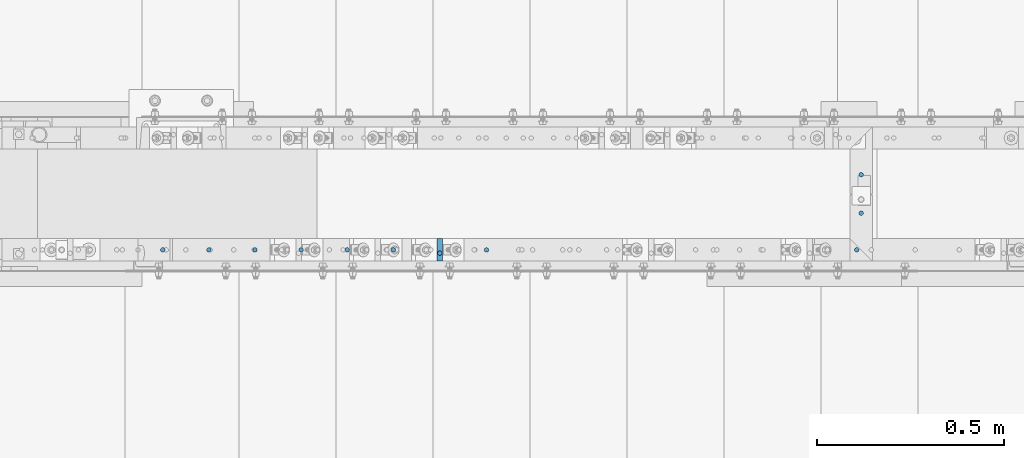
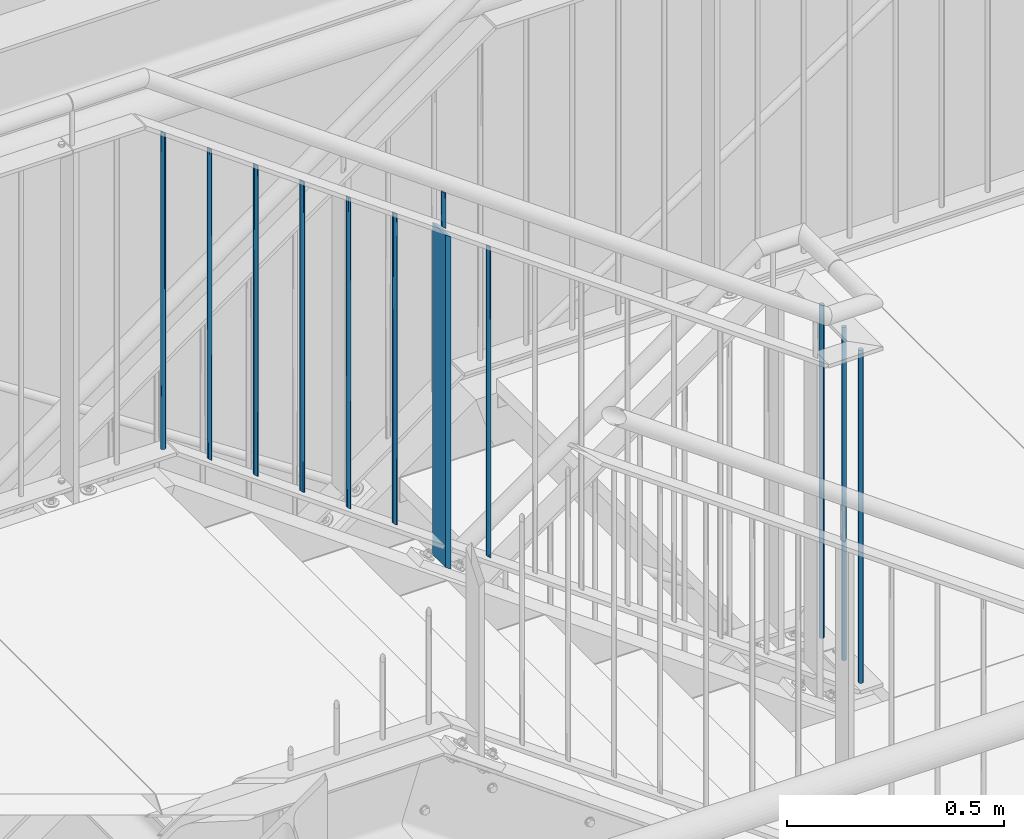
# One storey, part 50 of 825: 12 columns.
"""IFC2X3 building model written with IfcOpenShell, lengths in millimetres."""

import ifcopenshell
import ifcopenshell.guid

model = None  # the IFC model being written
_history = None  # IfcOwnerHistory: only IFC2X3 demands one
_inside = {}  # id of a spatial element -> (the spatial element, [elements in it])
_under = {}  # id of a project, library or spatial element -> (it, [spatial elements below it])
_declared = {}  # id of a project -> (the project, [libraries it declares])
_typed = {}  # id of a type object -> (the type object, [elements of that type])
_made_of = {}  # id of a material, layer set ... -> (it, [elements and type objects made of it])


def new_model(schema):
    """Start an empty IFC model of exactly this schema.

    Asked for "IFC4X3", IfcOpenShell would pick the latest addendum, in which some entities
    have other attributes; the version numbers below select the first issue.
    IFC2X3 requires an IfcOwnerHistory on every rooted entity: one is made here for all.
    """
    global model, _history
    if schema == "IFC4X3":
        model = ifcopenshell.file(schema_version=(4, 3, 0, 0))
    else:
        model = ifcopenshell.file(schema=schema)
    _inside.clear()
    _under.clear()
    _declared.clear()
    _typed.clear()
    _made_of.clear()
    _history = None
    if model.schema == "IFC2X3":
        org = make("IfcOrganization", Name="unknown")
        user = make(
            "IfcPersonAndOrganization",
            ThePerson=make("IfcPerson", FamilyName="unknown"),
            TheOrganization=org,
        )
        app = make(
            "IfcApplication",
            ApplicationDeveloper=org,
            Version="unknown",
            ApplicationFullName="unknown",
            ApplicationIdentifier="unknown",
        )
        _history = make(
            "IfcOwnerHistory",
            OwningUser=user,
            OwningApplication=app,
            ChangeAction="ADDED",
            CreationDate=0,
        )
    return model


def make(cls, **values):
    """One entity of the class cls with the attributes given. An attribute that is None is left unset."""
    return model.create_entity(
        cls, **{name: value for name, value in values.items() if value is not None}
    )


def entity(cls, *values):
    """Any entity or typed value of the class cls, its attributes in the order of the schema. None: left unset."""
    e = model.create_entity(cls)
    for i, value in enumerate(values):
        if value is not None:
            e[i] = value
    return e


def rooted(cls, **values):
    """An entity with a GlobalId (a new one), such as an element, a storey or a relation."""
    return make(cls, GlobalId=ifcopenshell.guid.new(), OwnerHistory=_history, **values)


def si_unit(unit_type, name, prefix=None):
    """IfcSIUnit, for example si_unit("LENGTHUNIT", "METRE", prefix="MILLI")."""
    return make("IfcSIUnit", UnitType=unit_type, Prefix=prefix, Name=name)


def converted_unit(unit_type, name, factor, base, dimensions=None, offset=None):
    """IfcConversionBasedUnit, such as the inch: factor (a typed value) times the base unit."""
    return make(
        "IfcConversionBasedUnit"
        if offset is None
        else "IfcConversionBasedUnitWithOffset",
        ConversionOffset=offset,
        Dimensions=None
        if dimensions is None
        else entity("IfcDimensionalExponents", *dimensions),
        UnitType=unit_type,
        Name=name,
        ConversionFactor=make(
            "IfcMeasureWithUnit", ValueComponent=factor, UnitComponent=base
        ),
    )


def assignment(units):
    """IfcUnitAssignment: the units of a project."""
    return None if units is None else make("IfcUnitAssignment", Units=units)


def point(xyz):
    """IfcCartesianPoint."""
    return None if xyz is None else make("IfcCartesianPoint", Coordinates=xyz)


def direction(xyz):
    """IfcDirection."""
    return None if xyz is None else make("IfcDirection", DirectionRatios=xyz)


def frame(location, z_axis=None, x_axis=None):
    """IfcAxis2Placement3D, a coordinate frame: its origin and axes. An axis left out is left unset."""
    return make(
        "IfcAxis2Placement3D",
        Location=point(location),
        Axis=direction(z_axis),
        RefDirection=direction(x_axis),
    )


def frame_2d(location, x_axis=None):
    """IfcAxis2Placement2D, a coordinate frame in the plane: its origin and x axis."""
    return make(
        "IfcAxis2Placement2D", Location=point(location), RefDirection=direction(x_axis)
    )


def origin():
    """The frame at (0, 0, 0) with its axes left unset."""
    return frame((0.0, 0.0, 0.0))


def origin_with_axes():
    """The frame at (0, 0, 0) with the z axis (0, 0, 1) and the x axis (1, 0, 0) written out."""
    return frame((0.0, 0.0, 0.0), z_axis=(0.0, 0.0, 1.0), x_axis=(1.0, 0.0, 0.0))


def origin_2d():
    """The frame at (0, 0) in the plane with its x axis left unset."""
    return frame_2d((0.0, 0.0))


def place(relative_to, where):
    """IfcLocalPlacement: puts the frame where relative to a parent placement (None: the world)."""
    return make(
        "IfcLocalPlacement", PlacementRelTo=relative_to, RelativePlacement=where
    )


def context(
    kind, dimensions, precision=None, world=None, true_north=None, identifier=None
):
    """IfcGeometricRepresentationContext, for example the 3D "Model" context."""
    return make(
        "IfcGeometricRepresentationContext",
        ContextIdentifier=identifier,
        ContextType=kind,
        CoordinateSpaceDimension=dimensions,
        Precision=precision,
        WorldCoordinateSystem=world,
        TrueNorth=true_north,
    )


def project(units=None, contexts=None):
    """IfcProject with its units and contexts."""
    return rooted(
        "IfcProject",
        Name="project",
        RepresentationContexts=contexts,
        UnitsInContext=assignment(units),
    )


def spatial(cls, under=None, at=None, **own):
    """A site, building, storey or space (cls), placed at a placement, below another one or the project."""
    s = rooted(cls, ObjectPlacement=at, **own)
    if under is not None:
        _under.setdefault(under.id(), (under, []))[1].append(s)
    return s


def profile(cls, at=None, kind="AREA", **sizes):
    """A parametric profile (cls). Its sizes go by their IFC names, for example OverallWidth=200.0."""
    return make(cls, ProfileType=kind, Position=at, **sizes)


def rectangle(**sizes):
    """IfcRectangleProfileDef."""
    return profile("IfcRectangleProfileDef", **sizes)


def circle(**sizes):
    """IfcCircleProfileDef."""
    return profile("IfcCircleProfileDef", **sizes)


def extrude(swept, where, along, depth):
    """IfcExtrudedAreaSolid: the profile swept, set in the frame where, extruded along a direction by depth."""
    return make(
        "IfcExtrudedAreaSolid",
        SweptArea=swept,
        Position=where,
        ExtrudedDirection=direction(along),
        Depth=depth,
    )


def clip(a, b, op="DIFFERENCE"):
    """IfcBooleanClippingResult: the solid a cut by the half space b."""
    return make(
        "IfcBooleanClippingResult", Operator=op, FirstOperand=a, SecondOperand=b
    )


def halfspace(plane, agree):
    """IfcHalfSpaceSolid: all space on one side of the plane z = 0 of the frame plane."""
    return make(
        "IfcHalfSpaceSolid",
        BaseSurface=make("IfcPlane", Position=plane),
        AgreementFlag=agree,
    )


def shape(context_of_items, identifier, shape_type, items):
    """IfcShapeRepresentation: the items that make up one representation, for example the "Body"."""
    return make(
        "IfcShapeRepresentation",
        ContextOfItems=context_of_items,
        RepresentationIdentifier=identifier,
        RepresentationType=shape_type,
        Items=items,
    )


def material(Name=None, Category=None):
    """IfcMaterial."""
    return make("IfcMaterial", Name=Name, Category=Category)


def made_of(thing, what):
    """Note that an element or type object is made of a material, layer set ...; save() writes the relation."""
    if what is not None:
        _made_of.setdefault(what.id(), (what, []))[1].append(thing)
    return thing


def element(
    cls,
    number,
    at=None,
    inside=None,
    cuts=None,
    type_object=None,
    material=None,
    context=None,
    identifier="Body",
    shape_type=None,
    held_by="IfcProductDefinitionShape",
    body=None,
    shapes=None,
    **own,
):
    """One element of the class cls, such as IfcWall. Its Tag is "e" and its number.

    at: its placement. inside: the storey or other place that contains it. cuts: it is an
    opening in that element (IfcRelVoidsElement). A single representation is given by context,
    identifier, shape_type and body (its items); several are given by shapes. held_by: the class
    of the entity that holds the representations. save() writes the other relations.
    """
    e = rooted(cls, Tag="e%d" % number, ObjectPlacement=at, **own)
    if body is not None:
        shapes = [shape(context, identifier, shape_type, body)]
    if shapes is not None:
        e.Representation = make(held_by, Representations=shapes)
    if inside is not None:
        _inside.setdefault(inside.id(), (inside, []))[1].append(e)
    if cuts is not None:
        rooted(
            "IfcRelVoidsElement", RelatingBuildingElement=cuts, RelatedOpeningElement=e
        )
    if type_object is not None:
        _typed.setdefault(type_object.id(), (type_object, []))[1].append(e)
    return made_of(e, material)


def aggregate(whole, parts):
    """IfcRelAggregates: a whole, such as a stair, and the parts it consists of."""
    return rooted("IfcRelAggregates", RelatingObject=whole, RelatedObjects=parts)


def save(model, path):
    """Write the relations noted so far, then the file.

    IfcRelAggregates (storeys below a building ...), IfcRelContainedInSpatialStructure (elements
    in a storey), IfcRelDefinesByType, IfcRelAssociatesMaterial and IfcRelDeclares: one each for
    every whole, place, type object, material and project.
    """
    for whole, parts in _under.values():
        aggregate(whole, parts)
    for where, things in _inside.values():
        rooted(
            "IfcRelContainedInSpatialStructure",
            RelatedElements=things,
            RelatingStructure=where,
        )
    for kind, things in _typed.values():
        rooted("IfcRelDefinesByType", RelatedObjects=things, RelatingType=kind)
    for what, things in _made_of.values():
        rooted("IfcRelAssociatesMaterial", RelatedObjects=things, RelatingMaterial=what)
    for by, libraries in _declared.values():
        rooted("IfcRelDeclares", RelatingContext=by, RelatedDefinitions=libraries)
    model.write(path)


model = new_model("IFC2X3")

# Units and contexts
model_context = context("Model", 3, precision=1e-09, world=origin_with_axes())
ifc_project = project(units=[si_unit("LENGTHUNIT", "METRE", prefix="MILLI"), si_unit("AREAUNIT", "SQUARE_METRE"), si_unit("VOLUMEUNIT", "CUBIC_METRE"), converted_unit("PLANEANGLEUNIT", "DEGREE", entity("IfcPlaneAngleMeasure", 0.01745329), si_unit("PLANEANGLEUNIT", "RADIAN"), dimensions=[0, 0, 0, 0, 0, 0, 0])], contexts=[model_context])

# Site, building, storey
site_placement = place(None, origin_with_axes())
site = spatial("IfcSite", under=ifc_project, at=site_placement, Name="Cnopf'sche Kinderklinik", CompositionType="ELEMENT")
building_placement = place(site_placement, origin_with_axes())
building = spatial("IfcBuilding", under=site, at=building_placement, Name="Struktur 1", CompositionType="ELEMENT")
storey_placement = place(building_placement, origin_with_axes())
storey = spatial("IfcBuildingStorey", under=building, at=storey_placement, Name="Default Storey", CompositionType="ELEMENT", Elevation=0.0)

# Columns
ifc_material = material(Name="S235JR")
for number, where, z_axis, x_axis, name in (
    (1, (7152.822212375, 5791.736971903, 17532.8000003), (0.0, 0.0, 1.0), (-1.0, 0.0, 0.0), "Railing_Picket_Stair#0"),
    (2, (7164.822212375, 5890.236971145, 17532.8000003), (0.0, 0.0, 1.0), (-1.0, 0.0, 0.0), "Railing_Picket_Stair#0"),
    (3, (7164.822212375, 5993.236971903, 17532.8000003), (0.0, 0.0, 1.0), (-1.0, 0.0, 0.0), "Railing_Picket_Stair#0"),
):
    element("IfcColumn", number, at=place(None, frame(where, z_axis=z_axis, x_axis=x_axis)), inside=storey, material=ifc_material, Name=name, ObjectType="Railing_Picket_Stair#0", context=model_context, shape_type="SweptSolid", body=[
        extrude(circle(Radius=6.0, at=origin_2d()), origin(), (0.0, 0.0, -1.0), 938.8),
    ])
column_1_placement = place(None, frame((6035.464152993, 5791.736971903, 18298.73407658), z_axis=(0.0, 0.0, 1.0), x_axis=(-1.0, 0.0, 0.0)))
element("IfcColumn", 4, at=column_1_placement, inside=storey, material=ifc_material, Name="Railing_Post_Stair#1", ObjectType="Railing_Post_Stair#1", context=model_context, shape_type="Clipping", body=[
    clip(clip(extrude(rectangle(XDim=15.0, YDim=60.0, at=origin_2d()), origin(), (0.0, 0.0, -1.0), 1013.117713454), halfspace(frame((-4238.110335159, 5791.736971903, -4025.523715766), z_axis=(-0.584187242, 0.0, 0.811618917), x_axis=(0.0, -1.0, 0.0)), True)), halfspace(frame((-4682.336196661, 5791.736971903, -3408.354961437), z_axis=(0.584187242, 0.0, -0.811618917), x_axis=(0.0, 1.0, 0.0)), True)),
])
column_2_placement = place(None, frame((6160.494152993, 5791.736971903, 18181.093962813), z_axis=(0.0, 0.0, 1.0), x_axis=(-1.0, 0.0, 0.0)))
element("IfcColumn", 5, at=column_2_placement, inside=storey, material=ifc_material, Name="Railing_Picket_Stair#6", ObjectType="Railing_Picket_Stair#6", context=model_context, shape_type="Clipping", body=[
    clip(clip(extrude(circle(Radius=6.0, at=origin_2d()), origin(), (0.0, 0.0, -1.0), 896.220460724), halfspace(frame((-4557.306196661, 5791.736971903, -3290.71484767), z_axis=(0.584187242, 0.0, -0.811618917), x_axis=(0.0, 1.0, 0.0)), True)), halfspace(frame((-4142.289697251, 5791.736971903, -3867.302656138), z_axis=(-0.584187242, 0.0, 0.811618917), x_axis=(0.0, -1.0, 0.0)), True)),
])
column_3_placement = place(None, frame((5910.434152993, 5791.736971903, 18361.08220453), z_axis=(0.0, 0.0, 1.0), x_axis=(-1.0, 0.0, 0.0)))
element("IfcColumn", 6, at=column_3_placement, inside=storey, material=ifc_material, Name="Railing_Picket_Stair#7", ObjectType="Railing_Picket_Stair#7", context=model_context, shape_type="Clipping", body=[
    clip(clip(extrude(circle(Radius=6.0, at=origin_2d()), origin(), (0.0, 0.0, -1.0), 896.220460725), halfspace(frame((-4807.366196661, 5791.736971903, -3470.703089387), z_axis=(0.584187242, 0.0, -0.811618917), x_axis=(0.0, 1.0, 0.0)), True)), halfspace(frame((-4392.349697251, 5791.736971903, -4047.290897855), z_axis=(-0.584187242, 0.0, 0.811618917), x_axis=(0.0, -1.0, 0.0)), True)),
])
column_4_placement = place(None, frame((5786.90244466, 5791.736971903, 18449.997884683), z_axis=(0.0, 0.0, 1.0), x_axis=(-1.0, 0.0, 0.0)))
element("IfcColumn", 7, at=column_4_placement, inside=storey, material=ifc_material, Name="Railing_Picket_Stair#8", ObjectType="Railing_Picket_Stair#8", context=model_context, shape_type="Clipping", body=[
    clip(clip(extrude(circle(Radius=6.0, at=origin_2d()), origin(), (0.0, 0.0, -1.0), 896.220460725), halfspace(frame((-4930.897904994, 5791.736971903, -3559.618769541), z_axis=(0.584187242, 0.0, -0.811618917), x_axis=(0.0, 1.0, 0.0)), True)), halfspace(frame((-4515.881405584, 5791.736971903, -4136.206578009), z_axis=(-0.584187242, 0.0, 0.811618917), x_axis=(0.0, -1.0, 0.0)), True)),
])
column_5_placement = place(None, frame((5663.370736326, 5791.736971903, 18538.913564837), z_axis=(0.0, 0.0, 1.0), x_axis=(-1.0, 0.0, 0.0)))
element("IfcColumn", 8, at=column_5_placement, inside=storey, material=ifc_material, Name="Railing_Picket_Stair#9", ObjectType="Railing_Picket_Stair#9", context=model_context, shape_type="Clipping", body=[
    clip(clip(extrude(circle(Radius=6.0, at=origin_2d()), origin(), (0.0, 0.0, -1.0), 896.220460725), halfspace(frame((-5054.429613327, 5791.736971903, -3648.534449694), z_axis=(0.584187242, 0.0, -0.811618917), x_axis=(0.0, 1.0, 0.0)), True)), halfspace(frame((-4639.413113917, 5791.736971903, -4225.122258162), z_axis=(-0.584187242, 0.0, 0.811618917), x_axis=(0.0, -1.0, 0.0)), True)),
])
column_6_placement = place(None, frame((5539.839027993, 5791.736971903, 18627.829244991), z_axis=(0.0, 0.0, 1.0), x_axis=(-1.0, 0.0, 0.0)))
element("IfcColumn", 9, at=column_6_placement, inside=storey, material=ifc_material, Name="Railing_Picket_Stair#10", ObjectType="Railing_Picket_Stair#10", context=model_context, shape_type="Clipping", body=[
    clip(clip(extrude(circle(Radius=6.0, at=origin_2d()), origin(), (0.0, 0.0, -1.0), 896.220460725), halfspace(frame((-5177.961321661, 5791.736971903, -3737.450129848), z_axis=(0.584187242, 0.0, -0.811618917), x_axis=(0.0, 1.0, 0.0)), True)), halfspace(frame((-4762.944822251, 5791.736971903, -4314.037938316), z_axis=(-0.584187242, 0.0, 0.811618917), x_axis=(0.0, -1.0, 0.0)), True)),
])
column_7_placement = place(None, frame((5416.30731966, 5791.736971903, 18716.744925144), z_axis=(0.0, 0.0, 1.0), x_axis=(-1.0, 0.0, 0.0)))
element("IfcColumn", 10, at=column_7_placement, inside=storey, material=ifc_material, Name="Railing_Picket_Stair#11", ObjectType="Railing_Picket_Stair#11", context=model_context, shape_type="Clipping", body=[
    clip(clip(extrude(circle(Radius=6.0, at=origin_2d()), origin(), (0.0, 0.0, -1.0), 896.220460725), halfspace(frame((-5301.493029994, 5791.736971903, -3826.365810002), z_axis=(0.584187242, 0.0, -0.811618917), x_axis=(0.0, 1.0, 0.0)), True)), halfspace(frame((-4886.476530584, 5791.736971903, -4402.95361847), z_axis=(-0.584187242, 0.0, 0.811618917), x_axis=(0.0, -1.0, 0.0)), True)),
])
column_8_placement = place(None, frame((5292.775611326, 5791.736971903, 18805.660605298), z_axis=(0.0, 0.0, 1.0), x_axis=(-1.0, 0.0, 0.0)))
element("IfcColumn", 11, at=column_8_placement, inside=storey, material=ifc_material, Name="Railing_Picket_Landing#12", ObjectType="Railing_Picket_Landing#12", context=model_context, shape_type="Clipping", body=[
    clip(extrude(circle(Radius=6.0, at=origin_2d()), origin(), (0.0, 0.0, -1.0), 901.660605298), halfspace(frame((-5425.024738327, 5791.736971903, -3915.281490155), z_axis=(0.584187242, 0.0, -0.811618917), x_axis=(0.0, 1.0, 0.0)), True)),
])
column_9_placement = place(None, frame((6035.464152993, 5782.936971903, 18383.409137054), z_axis=(0.0, 0.0, 1.0), x_axis=(0.0, 1.0, 0.0)))
element("IfcColumn", 12, at=column_9_placement, inside=storey, material=ifc_material, Name="Bar#1", ObjectType="Bar#1", context=model_context, shape_type="Clipping", body=[
    clip(clip(extrude(circle(Radius=6.0, at=origin_2d()), origin(), (0.0, 0.0, -1.0), 120.909520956), halfspace(frame((-5782.936971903, -4688.179237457, -3484.912209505), z_axis=(0.0, -0.584187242, 0.811618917), x_axis=(1.0, 0.0, 0.0)), True)), halfspace(frame((-5782.936971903, -4735.591810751, -3419.041306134), z_axis=(0.0, 0.584187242, -0.811618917), x_axis=(-1.0, 0.0, 0.0)), True)),
])

save(model, "model.ifc")
